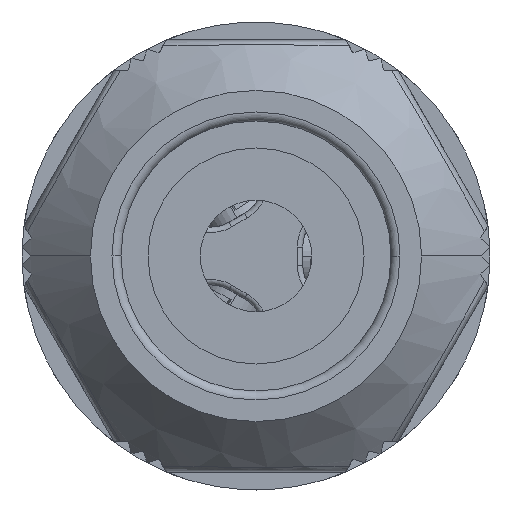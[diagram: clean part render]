
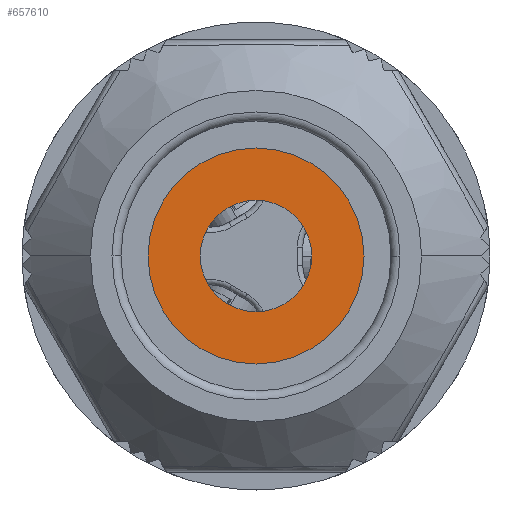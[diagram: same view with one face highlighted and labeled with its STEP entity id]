
A CAD part, left-side view. The second image highlights one B-rep face of the part: STEP entity #657610.
In plain terms, the highlighted planar face has unit normal (-1, 0, 0) as drawn and (0, 0, -1) by its records, which use the part's own axes.
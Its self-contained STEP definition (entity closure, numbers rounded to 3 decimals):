
#657260=CARTESIAN_POINT('',(0.,0.,0.));
#657270=DIRECTION('',(0.,0.,1.));
#657280=DIRECTION('',(1.,0.,0.));
#657290=AXIS2_PLACEMENT_3D('',#657260,#657270,#657280);
#657300=PLANE('',#657290);
#657310=CARTESIAN_POINT('',(0.,0.,0.));
#657320=DIRECTION('',(0.,0.,1.));
#657330=DIRECTION('',(1.,0.,0.));
#657340=AXIS2_PLACEMENT_3D('',#657310,#657320,#657330);
#657350=CIRCLE('',#657340,6.);
#657360=CARTESIAN_POINT('',(6.,0.,0.));
#657370=VERTEX_POINT('',#657360);
#657380=CARTESIAN_POINT('',(-6.,0.,0.));
#657390=VERTEX_POINT('',#657380);
#657400=EDGE_CURVE('',#657370,#657390,#657350,.T.);
#657410=ORIENTED_EDGE('',*,*,#657400,.F.);
#657420=EDGE_CURVE('',#657390,#657370,#657350,.T.);
#657430=ORIENTED_EDGE('',*,*,#657420,.F.);
#657440=EDGE_LOOP('',(#657430,#657410));
#657450=FACE_OUTER_BOUND('',#657440,.T.);
#657460=CARTESIAN_POINT('',(0.,0.,0.));
#657470=DIRECTION('',(0.,0.,1.));
#657480=DIRECTION('',(1.,0.,0.));
#657490=AXIS2_PLACEMENT_3D('',#657460,#657470,#657480);
#657500=CIRCLE('',#657490,3.1);
#657510=CARTESIAN_POINT('',(3.1,0.,0.));
#657520=VERTEX_POINT('',#657510);
#657530=CARTESIAN_POINT('',(-3.1,0.,0.));
#657540=VERTEX_POINT('',#657530);
#657550=EDGE_CURVE('',#657520,#657540,#657500,.T.);
#657560=ORIENTED_EDGE('',*,*,#657550,.T.);
#657570=EDGE_CURVE('',#657540,#657520,#657500,.T.);
#657580=ORIENTED_EDGE('',*,*,#657570,.T.);
#657590=EDGE_LOOP('',(#657580,#657560));
#657600=FACE_BOUND('',#657590,.T.);
#657610=ADVANCED_FACE('',(#657450,#657600),#657300,.F.);
